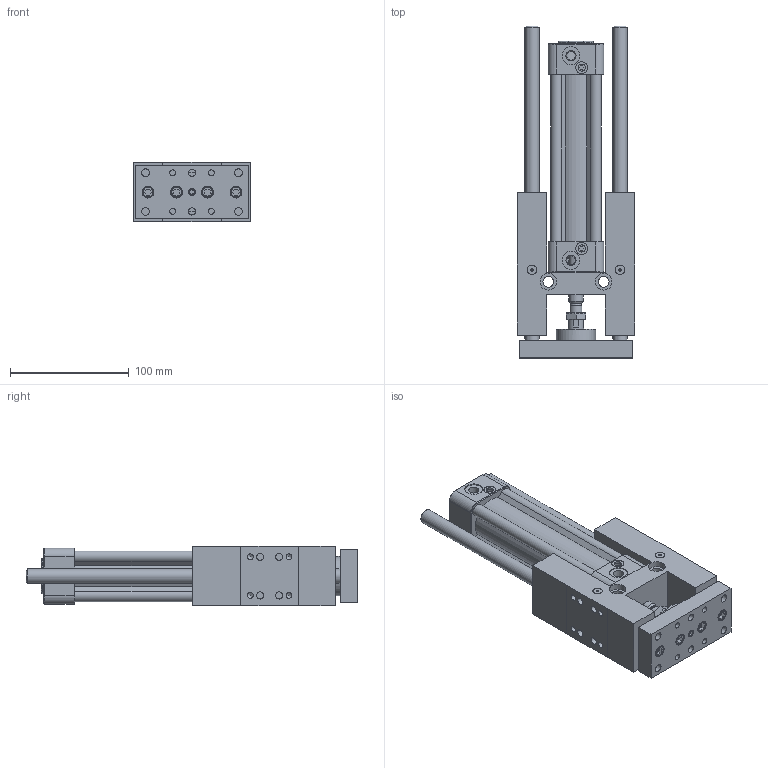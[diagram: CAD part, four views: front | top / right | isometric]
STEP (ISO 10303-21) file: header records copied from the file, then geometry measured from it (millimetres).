
FILE_DESCRIPTION((''),'2;1');
FILE_NAME('I:\3D電子目錄\氣缸\GHB(U)\GHB(U)\GHB(U)32\GHB(U)32x100.stp','2007-10-19T10:34:02',('Administrator'),(''),'Autodesk Inventor 11','Autodesk Inventor 11','');
FILE_SCHEMA(('AUTOMOTIVE_DESIGN { 1 0 10303 214 1 1 1 1 }'));
Length unit declared in the file: millimetre
Products named in the file (1): GHB(U)32
Bounding box: 99 x 279 x 50.2 mm (x, y, z)
Volume: 645745.9 mm3; surface area: 171323.6 mm2
Topology: 17 solids, 17 shells, 738 faces, 1598 edges, 986 vertices
Faces by surface type: plane 291, bspline 199, cylinder 159, cone 80, torus 9
Full cylindrical faces by diameter (mm): 2.6 x2, 4.9 x2, 4.917 x4, 5 x5, 5.5 x10, 6 x11, 6.5 x8, 7.5 x1, 7.8 x4, 7.9 x3, 8 x5, 9 x8, 10 x7, 10.2 x8, 12 x4, 13 x1, 14 x1, 15 x2, 17 x2, 30 x1, 32 x1, 33 x1
Entity records: 20771 total; most frequent: CARTESIAN_POINT 6160, DIRECTION 2934, ORIENTED_EDGE 2754, EDGE_CURVE 1377, AXIS2_PLACEMENT_3D 1157, EDGE_LOOP 1056, VERTEX_POINT 953, FACE_OUTER_BOUND 738
